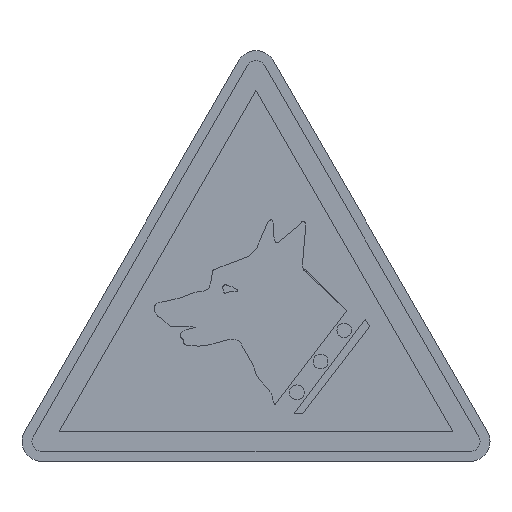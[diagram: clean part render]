
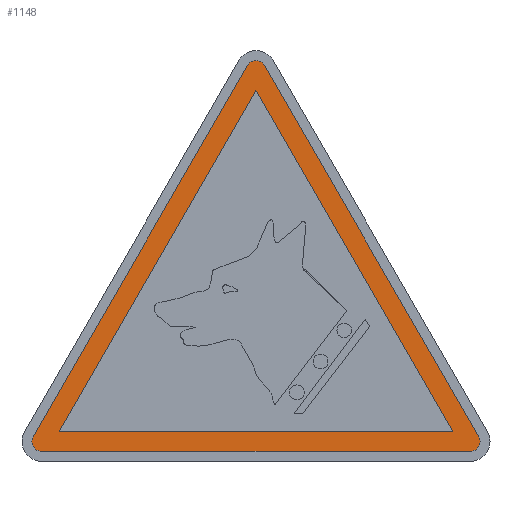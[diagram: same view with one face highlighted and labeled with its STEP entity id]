
A CAD part, top view. The second image highlights one B-rep face of the part: STEP entity #1148.
In plain terms, the highlighted planar face has unit normal (0, 0, 1).
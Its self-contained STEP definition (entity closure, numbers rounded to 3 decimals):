
#24 = EDGE_CURVE ( 'NONE', #1818, #1364, #289, .T. ) ;
#38 = EDGE_CURVE ( 'NONE', #1034, #1818, #315, .T. ) ;
#47 = CARTESIAN_POINT ( 'NONE',  ( 21.536, 2., 0.22 ) ) ;
#51 = VECTOR ( 'NONE', #185, 1000. ) ;
#54 = CARTESIAN_POINT ( 'NONE',  ( -21.536, 1., 0.22 ) ) ;
#70 = AXIS2_PLACEMENT_3D ( 'NONE', #1384, #1225, #383 ) ;
#104 = ORIENTED_EDGE ( 'NONE', *, *, #1717, .T. ) ;
#108 = CARTESIAN_POINT ( 'NONE',  ( -0.866, 39.801, 0.22 ) ) ;
#130 = DIRECTION ( 'NONE',  ( -0.5, 0.866, 0. ) ) ;
#145 = DIRECTION ( 'NONE',  ( 1., 0., 0. ) ) ;
#157 = DIRECTION ( 'NONE',  ( -0.5, 0.866, 0. ) ) ;
#158 = DIRECTION ( 'NONE',  ( 1., 0., 0. ) ) ;
#167 = EDGE_CURVE ( 'NONE', #2136, #1059, #524, .T. ) ;
#185 = DIRECTION ( 'NONE',  ( -0.5, -0.866, 0. ) ) ;
#240 = CARTESIAN_POINT ( 'NONE',  ( -21.536, 2., 0.22 ) ) ;
#272 = FACE_OUTER_BOUND ( 'NONE', #1229, .T. ) ;
#275 = VERTEX_POINT ( 'NONE', #693 ) ;
#283 = ORIENTED_EDGE ( 'NONE', *, *, #915, .T. ) ;
#289 = LINE ( 'NONE', #1987, #1842 ) ;
#294 = DIRECTION ( 'NONE',  ( 0., 0., 1. ) ) ;
#315 = LINE ( 'NONE', #624, #910 ) ;
#322 = CARTESIAN_POINT ( 'NONE',  ( 0., 39.301, 0.22 ) ) ;
#362 = VECTOR ( 'NONE', #145, 1000. ) ;
#371 = DIRECTION ( 'NONE',  ( 0., 0., 1. ) ) ;
#383 = DIRECTION ( 'NONE',  ( 1., 0., 0. ) ) ;
#417 = VERTEX_POINT ( 'NONE', #108 ) ;
#457 = CIRCLE ( 'NONE', #882, 1. ) ;
#490 = CIRCLE ( 'NONE', #1265, 1. ) ;
#524 = CIRCLE ( 'NONE', #70, 1. ) ;
#543 = DIRECTION ( 'NONE',  ( 0., 0., 1. ) ) ;
#554 = VECTOR ( 'NONE', #1486, 1000. ) ;
#624 = CARTESIAN_POINT ( 'NONE',  ( -19.804, 3., 0.22 ) ) ;
#636 = CARTESIAN_POINT ( 'NONE',  ( -0.866, 39.801, 0.22 ) ) ;
#669 = ORIENTED_EDGE ( 'NONE', *, *, #1706, .T. ) ;
#693 = CARTESIAN_POINT ( 'NONE',  ( 21.536, 1., 0.22 ) ) ;
#719 = CARTESIAN_POINT ( 'NONE',  ( -22.536, 2., 0.22 ) ) ;
#777 = EDGE_CURVE ( 'NONE', #1788, #417, #1545, .T. ) ;
#778 = DIRECTION ( 'NONE',  ( 1., 0., 0. ) ) ;
#788 = LINE ( 'NONE', #1146, #362 ) ;
#793 = CARTESIAN_POINT ( 'NONE',  ( 0., 37.301, 0.22 ) ) ;
#815 = LINE ( 'NONE', #2010, #2127 ) ;
#882 = AXIS2_PLACEMENT_3D ( 'NONE', #240, #1956, #778 ) ;
#910 = VECTOR ( 'NONE', #158, 1000. ) ;
#915 = EDGE_CURVE ( 'NONE', #1059, #1026, #457, .T. ) ;
#962 = CARTESIAN_POINT ( 'NONE',  ( -22.402, 2.5, 0.22 ) ) ;
#982 = CARTESIAN_POINT ( 'NONE',  ( 0., 37.301, 0.22 ) ) ;
#994 = EDGE_CURVE ( 'NONE', #1364, #1034, #1366, .T. ) ;
#1005 = CARTESIAN_POINT ( 'NONE',  ( 0.866, 39.801, 0.22 ) ) ;
#1016 = CARTESIAN_POINT ( 'NONE',  ( 19.804, 3., 0.22 ) ) ;
#1026 = VERTEX_POINT ( 'NONE', #54 ) ;
#1034 = VERTEX_POINT ( 'NONE', #1405 ) ;
#1059 = VERTEX_POINT ( 'NONE', #719 ) ;
#1096 = ORIENTED_EDGE ( 'NONE', *, *, #38, .F. ) ;
#1146 = CARTESIAN_POINT ( 'NONE',  ( -21.536, 1., 0.22 ) ) ;
#1148 = ADVANCED_FACE ( 'NONE', ( #272, #1917 ), #1456, .T. ) ;
#1167 = LINE ( 'NONE', #636, #51 ) ;
#1225 = DIRECTION ( 'NONE',  ( 0., 0., 1. ) ) ;
#1229 = EDGE_LOOP ( 'NONE', ( #1274, #669, #1925, #283, #1764, #2039, #104 ) ) ;
#1265 = AXIS2_PLACEMENT_3D ( 'NONE', #47, #543, #1407 ) ;
#1274 = ORIENTED_EDGE ( 'NONE', *, *, #777, .T. ) ;
#1307 = AXIS2_PLACEMENT_3D ( 'NONE', #2035, #371, #1571 ) ;
#1340 = AXIS2_PLACEMENT_3D ( 'NONE', #322, #294, #1670 ) ;
#1364 = VERTEX_POINT ( 'NONE', #793 ) ;
#1366 = LINE ( 'NONE', #982, #554 ) ;
#1384 = CARTESIAN_POINT ( 'NONE',  ( -21.536, 2., 0.22 ) ) ;
#1405 = CARTESIAN_POINT ( 'NONE',  ( -19.804, 3., 0.22 ) ) ;
#1407 = DIRECTION ( 'NONE',  ( 1., 0., 0. ) ) ;
#1414 = EDGE_CURVE ( 'NONE', #275, #1600, #490, .T. ) ;
#1439 = CARTESIAN_POINT ( 'NONE',  ( 22.402, 2.5, 0.22 ) ) ;
#1456 = PLANE ( 'NONE',  #1340 ) ;
#1486 = DIRECTION ( 'NONE',  ( -0.5, -0.866, 0. ) ) ;
#1524 = ORIENTED_EDGE ( 'NONE', *, *, #994, .F. ) ;
#1545 = CIRCLE ( 'NONE', #1307, 1. ) ;
#1571 = DIRECTION ( 'NONE',  ( 1., 0., 0. ) ) ;
#1600 = VERTEX_POINT ( 'NONE', #1439 ) ;
#1670 = DIRECTION ( 'NONE',  ( 1., 0., 0. ) ) ;
#1706 = EDGE_CURVE ( 'NONE', #417, #2136, #1167, .T. ) ;
#1717 = EDGE_CURVE ( 'NONE', #1600, #1788, #815, .T. ) ;
#1747 = EDGE_LOOP ( 'NONE', ( #1096, #1524, #1853 ) ) ;
#1764 = ORIENTED_EDGE ( 'NONE', *, *, #2149, .T. ) ;
#1788 = VERTEX_POINT ( 'NONE', #1005 ) ;
#1818 = VERTEX_POINT ( 'NONE', #1016 ) ;
#1842 = VECTOR ( 'NONE', #130, 1000. ) ;
#1853 = ORIENTED_EDGE ( 'NONE', *, *, #24, .F. ) ;
#1917 = FACE_BOUND ( 'NONE', #1747, .T. ) ;
#1925 = ORIENTED_EDGE ( 'NONE', *, *, #167, .T. ) ;
#1956 = DIRECTION ( 'NONE',  ( 0., 0., 1. ) ) ;
#1987 = CARTESIAN_POINT ( 'NONE',  ( 19.804, 3., 0.22 ) ) ;
#2010 = CARTESIAN_POINT ( 'NONE',  ( 22.402, 2.5, 0.22 ) ) ;
#2035 = CARTESIAN_POINT ( 'NONE',  ( 0., 39.301, 0.22 ) ) ;
#2039 = ORIENTED_EDGE ( 'NONE', *, *, #1414, .T. ) ;
#2127 = VECTOR ( 'NONE', #157, 1000. ) ;
#2136 = VERTEX_POINT ( 'NONE', #962 ) ;
#2149 = EDGE_CURVE ( 'NONE', #1026, #275, #788, .T. ) ;
